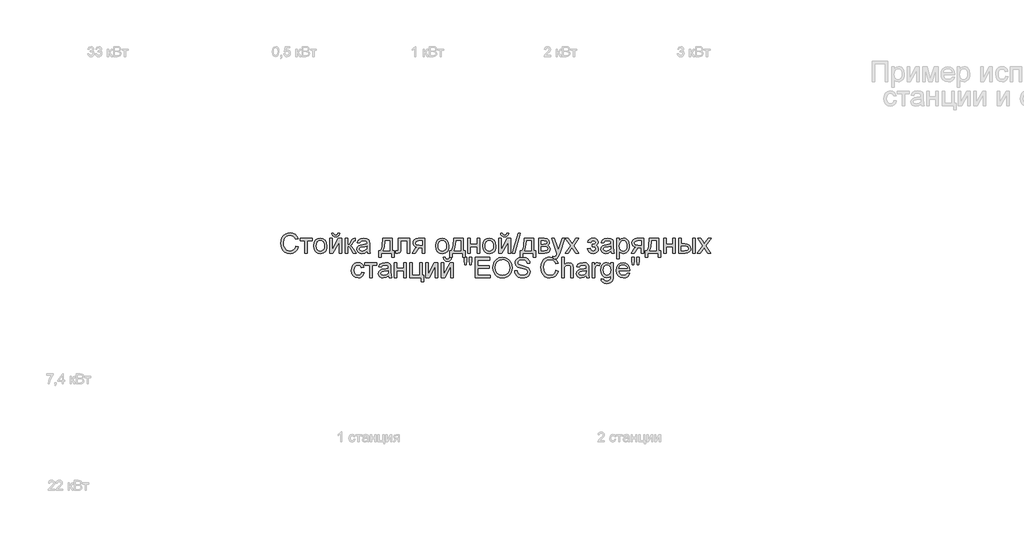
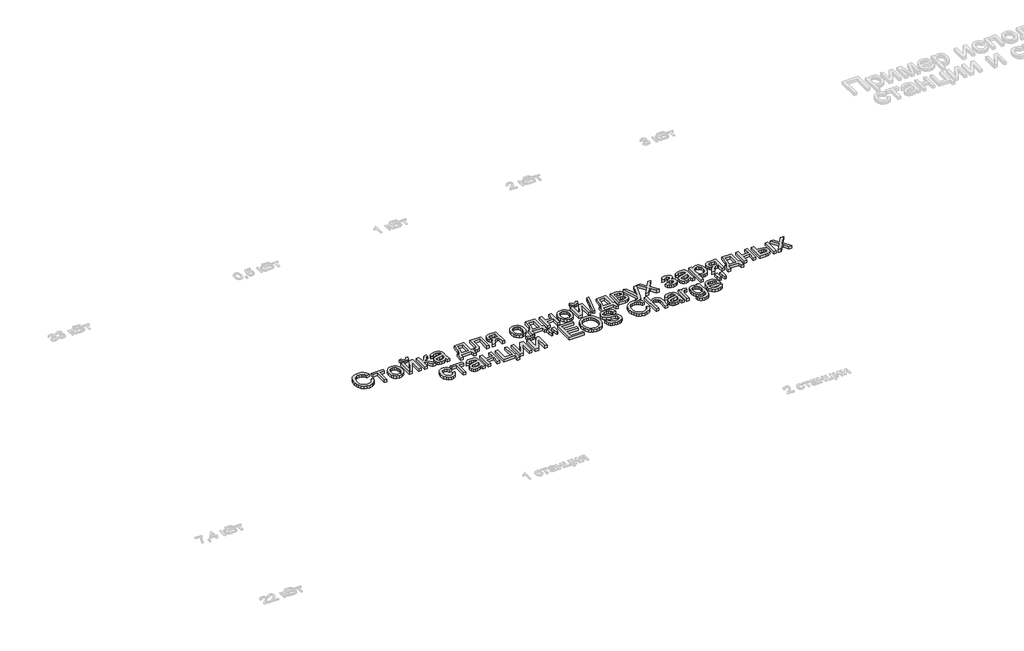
# One storey, part 8 of 26: 1 proxy.
"""IFC4 building model written with IfcOpenShell, lengths in millimetres."""

from ifc_helpers import new_model, si_unit, origin, origin_with_axes, place, context, project, spatial, polyline, outline, extrude, element, save

model = new_model("IFC4")

# Units and contexts
model_context = context("Model", 3, world=origin())
ifc_project = project(units=[si_unit("LENGTHUNIT", "METRE", prefix="MILLI")], contexts=[model_context])

# Site, building, storey
site = spatial("IfcSite", under=ifc_project)
building = spatial("IfcBuilding", under=site)
storey = spatial("IfcBuildingStorey", under=building, Name="Этаж 01", Elevation=0.0)

# Proxy
placement = place(None, origin())
element("IfcBuildingElementProxy", 1, Name="150 мм Arial", ObjectType="150 мм Arial", at=placement, inside=storey, context=model_context, shape_type="SweptSolid", body=[
    extrude(outline(polyline([(9645.9438653, -21077.7070526), (9664.7794235, -21082.5630949), (9656.0882114, -21104.5118545), (9642.4489864, -21120.5469109), (9624.5331332, -21130.3555646), (9603.0120365, -21133.6251159), (9581.1644445, -21131.1511094), (9563.8142099, -21123.7290902), (9550.5152758, -21111.6165755), (9540.8215852, -21095.0710828), (9534.9032836, -21075.6193223), (9532.9305164, -21054.7880043), (9535.160801, -21032.8162521), (9541.8516548, -21013.8427382), (9552.6535899, -20998.4698693), (9567.2171184, -20987.3000523), (9584.489178, -20980.4988339), (9603.4167067, -20978.2317611), (9624.0686822, -20981.16562), (9641.1430053, -20989.9671967), (9654.1062471, -21004.0938653), (9662.4249787, -21023.0029999), (9643.5894206, -21027.4911602), (9637.0595152, -21013.7553662), (9628.1383768, -21004.3329886), (9616.7156408, -20998.8837366), (9602.6809427, -20997.0673192), (9586.503332, -20999.0814732), (9573.2135949, -21005.1239349), (9563.1290297, -21014.5601081), (9556.5669346, -21026.7553963), (9551.7660746, -21054.7512161), (9553.1870188, -21072.1520345), (9557.4498514, -21087.1984081), (9564.7155208, -21099.3155213), (9575.1449754, -21107.9285585), (9587.6483647, -21113.0743079), (9601.1358383, -21114.7895577), (9616.8581951, -21112.453507), (9629.9593926, -21105.445355), (9639.8508198, -21093.8386781), (9645.9438653, -21077.7070526)])), origin_with_axes(), (0.0, 0.0, 1.0), 20.0),
    extrude(outline(polyline([(9678.9060921, -21020.6117669), (9768.3749933, -21020.6117669), (9768.3749933, -21039.4473251), (9733.0583218, -21039.4473251), (9733.0583218, -21131.2706711), (9714.2227636, -21131.2706711), (9714.2227636, -21039.4473251), (9678.9060921, -21039.4473251), (9678.9060921, -21020.6117669)])), origin_with_axes(), (0.0, 0.0, 1.0), 20.0),
    extrude(outline(polyline([(9780.1472172, -21075.941219), (9784.2215103, -21049.2605773), (9796.4443896, -21030.5077926), (9811.5459455, -21021.3199398), (9829.6273455, -21018.2573222), (9849.4147983, -21021.9867259), (9865.2199286, -21033.1749371), (9875.5804052, -21050.9390389), (9879.0338975, -21074.3961146), (9877.5071872, -21093.4248108), (9872.9270564, -21107.9101644), (9865.4268622, -21118.7580847), (9855.1399619, -21126.8744812), (9842.9216811, -21131.9374572), (9829.6273455, -21133.6251159), (9809.6007694, -21129.9095077), (9793.8140333, -21118.7626832), (9783.5639212, -21100.6261009), (9780.1472172, -21075.941219)]), holes=[polyline([(9798.9827753, -21075.9044308), (9801.1624761, -21092.9511628), (9807.7015786, -21105.0958671), (9817.542422, -21112.3661351), (9829.6273455, -21114.7895577), (9841.6570868, -21112.3523395), (9851.479536, -21105.0406848), (9858.0186385, -21092.7350321), (9860.1983393, -21075.3158196), (9858.0048429, -21058.7657284), (9851.4243537, -21046.7865709), (9841.5881089, -21039.516303), (9829.6273455, -21037.0928803), (9817.542422, -21039.5071059), (9807.7015786, -21046.7497827), (9801.1624761, -21058.8668959), (9798.9827753, -21075.9044308)])]), origin_with_axes(), (0.0, 0.0, 1.0), 20.0),
    extrude(outline(polyline([(9900.2239004, -21020.6117669), (9919.0594586, -21020.6117669), (9919.0594586, -21105.0038966), (9965.3390135, -21020.6117669), (9989.6928016, -21020.6117669), (9989.6928016, -21131.2706711), (9970.8572435, -21131.2706711), (9970.8572435, -21047.3935762), (9924.8719941, -21131.2706711), (9900.2239004, -21131.2706711), (9900.2239004, -21020.6117669)])), origin_with_axes(), (0.0, 0.0, 1.0), 20.0),
    extrude(outline(polyline([(9961.4394644, -20980.5862059), (9975.566133, -20980.5862059), (9972.526508, -20992.6481368), (9966.4242654, -21001.5370855), (9957.5353167, -21007.0139287), (9946.1355734, -21008.8395431), (9933.7655413, -21007.0277243), (9924.1730183, -21001.5922678), (9917.6155217, -20992.7171146), (9914.350569, -20980.5862059), (9928.4772376, -20980.5862059), (9933.7747384, -20991.1996014), (9944.4433162, -20994.7128745), (9956.1419637, -20991.309966), (9961.4394644, -20980.5862059)])), origin_with_axes(), (0.0, 0.0, 1.0), 20.0),
    extrude(outline(polyline([(10017.9461389, -21020.6117669), (10036.781697, -21020.6117669), (10036.781697, -21067.7006623), (10049.4000494, -21064.316148), (10059.7375335, -21044.597673), (10068.3275781, -21027.5831307), (10075.9059472, -21022.0465067), (10089.6831279, -21020.6117669), (10093.2883715, -21020.6117669), (10093.2883715, -21039.5576897), (10088.2115999, -21039.4473251), (10079.0145501, -21041.4338879), (10072.5398269, -21053.8315111), (10064.9430637, -21067.2408098), (10054.29288, -21073.8075034), (10066.1754684, -21081.1375522), (10077.8373277, -21096.5793989), (10097.997261, -21131.2706711), (10076.5865289, -21131.2706711), (10056.8312657, -21097.3151629), (10046.8984519, -21082.949371), (10036.781697, -21079.4728862), (10036.781697, -21131.2706711), (10017.9461389, -21131.2706711), (10017.9461389, -21020.6117669)])), origin_with_axes(), (0.0, 0.0, 1.0), 20.0),
    extrude(outline(polyline([(10180.4028279, -21117.1440025), (10162.1374869, -21129.9095077), (10141.9591594, -21133.6251159), (10126.2184086, -21131.3902327), (10114.6071331, -21124.6855834), (10107.4472298, -21114.5044492), (10105.0605953, -21101.8401115), (10108.6658389, -21086.9408907), (10118.1388002, -21076.12516), (10131.3273698, -21069.9447425), (10147.6245422, -21067.1120511), (10180.2924633, -21060.637328), (10180.4028279, -21056.4434733), (10179.1060439, -21048.0373697), (10175.2156918, -21042.5375338), (10166.5152826, -21038.4540437), (10154.3935709, -21037.0928803), (10135.3372835, -21040.716518), (10126.2505982, -21053.5739937), (10107.4150401, -21051.2195489), (10115.5636263, -21032.8254492), (10131.9711633, -21022.0465067), (10156.821592, -21018.2573222), (10179.6486698, -21021.6050483), (10192.5429338, -21030.0111519), (10198.3186811, -21042.7950512), (10199.2383861, -21059.2761646), (10199.2383861, -21082.7102477), (10200.1948793, -21115.4333512), (10203.9472756, -21131.2706711), (10185.1117175, -21131.2706711), (10180.4028279, -21117.1440025)]), holes=[polyline([(10180.4028279, -21079.4728862), (10150.0157751, -21085.2486335), (10133.8105732, -21088.302054), (10126.4713274, -21093.268461), (10123.8961535, -21100.5157363), (10129.5063539, -21110.7060676), (10145.9690732, -21114.7895577), (10165.0253605, -21110.2830033), (10177.3126192, -21099.3753021), (10180.2924633, -21084.8071751), (10180.4028279, -21079.4728862)])]), origin_with_axes(), (0.0, 0.0, 1.0), 20.0),
    extrude(outline(polyline([(10300.4795112, -21020.6117669), (10371.1128542, -21020.6117669), (10371.1128542, -21112.4351129), (10385.2395228, -21112.4351129), (10385.2395228, -21161.8784531), (10366.4039647, -21161.8784531), (10366.4039647, -21131.2706711), (10288.7072873, -21131.2706711), (10288.7072873, -21161.8784531), (10269.8717292, -21161.8784531), (10269.8717292, -21112.4351129), (10281.643953, -21112.4351129), (10290.2018079, -21096.9702736), (10296.1936859, -21076.5114361), (10300.4795112, -21020.6117669)]), holes=[polyline([(10316.9606245, -21039.4473251), (10312.5460406, -21082.3607598), (10302.8339559, -21112.4351129), (10352.2772961, -21112.4351129), (10352.2772961, -21039.4473251), (10316.9606245, -21039.4473251)])]), origin_with_axes(), (0.0, 0.0, 1.0), 20.0),
    extrude(outline(polyline([(10415.8473048, -21020.6117669), (10500.6073165, -21020.6117669), (10500.6073165, -21131.1603065), (10481.7717584, -21131.1603065), (10481.7717584, -21039.4473251), (10434.682863, -21039.4473251), (10434.682863, -21092.2383914), (10433.4136701, -21116.5921795), (10426.4423063, -21126.8744812), (10409.9611929, -21131.2706711), (10394.6573019, -21130.3141779), (10394.6573019, -21112.4351129), (10403.0817996, -21112.4351129), (10411.5982678, -21111.2762846), (10415.0011763, -21107.5974647), (10415.8473048, -21091.1715336), (10415.8473048, -21020.6117669)])), origin_with_axes(), (0.0, 0.0, 1.0), 20.0),
    extrude(outline(polyline([(10613.6206654, -21020.6117669), (10613.6206654, -21131.2706711), (10594.7851073, -21131.2706711), (10594.7851073, -21088.8906652), (10584.5211996, -21088.8906652), (10570.5416838, -21091.2818982), (10557.4082966, -21107.3583414), (10542.3987112, -21131.2706711), (10520.6200971, -21131.2706711), (10539.5292316, -21101.0307711), (10547.8801529, -21090.1782522), (10555.5688866, -21085.3589981), (10542.6930168, -21081.4134637), (10533.6431197, -21073.917868), (10528.2904367, -21063.948266), (10526.506209, -21052.5807123), (10528.9434272, -21039.6864484), (10536.2550819, -21029.477723), (10548.1836556, -21022.828256), (10564.4716309, -21020.6117669), (10613.6206654, -21020.6117669)]), holes=[polyline([(10594.7851073, -21039.4473251), (10569.9530726, -21039.4473251), (10557.1277866, -21040.5371755), (10549.8483216, -21043.8067267), (10545.3417671, -21054.0154521), (10547.0018346, -21061.1937495), (10551.9820372, -21066.173952), (10575.5080907, -21070.0551071), (10594.7851073, -21070.0551071), (10594.7851073, -21039.4473251)])]), origin_with_axes(), (0.0, 0.0, 1.0), 20.0),
    extrude(outline(polyline([(10696.0262324, -21075.941219), (10700.1005255, -21049.2605773), (10712.3234048, -21030.5077926), (10727.4249607, -21021.3199398), (10745.5063607, -21018.2573222), (10765.2938135, -21021.9867259), (10781.0989438, -21033.1749371), (10791.4594204, -21050.9390389), (10794.9129127, -21074.3961146), (10793.3862024, -21093.4248108), (10788.8060716, -21107.9101644), (10781.3058774, -21118.7580847), (10771.0189771, -21126.8744812), (10758.8006963, -21131.9374572), (10745.5063607, -21133.6251159), (10725.4797846, -21129.9095077), (10709.6930485, -21118.7626832), (10699.4429364, -21100.6261009), (10696.0262324, -21075.941219)]), holes=[polyline([(10714.8617905, -21075.9044308), (10717.0414913, -21092.9511628), (10723.5805938, -21105.0958671), (10733.4214372, -21112.3661351), (10745.5063607, -21114.7895577), (10757.536102, -21112.3523395), (10767.3585512, -21105.0406848), (10773.8976537, -21092.7350321), (10776.0773545, -21075.3158196), (10773.8838581, -21058.7657284), (10767.3033689, -21046.7865709), (10757.4671241, -21039.516303), (10745.5063607, -21037.0928803), (10733.4214372, -21039.5071059), (10723.5805938, -21046.7497827), (10717.0414913, -21058.8668959), (10714.8617905, -21075.9044308)])]), origin_with_axes(), (0.0, 0.0, 1.0), 20.0),
    extrude(outline(polyline([(10832.584029, -21020.6117669), (10903.2173721, -21020.6117669), (10903.2173721, -21112.4351129), (10917.3440407, -21112.4351129), (10917.3440407, -21161.8784531), (10898.5084825, -21161.8784531), (10898.5084825, -21131.2706711), (10820.8118051, -21131.2706711), (10820.8118051, -21161.8784531), (10801.976247, -21161.8784531), (10801.976247, -21112.4351129), (10813.7484708, -21112.4351129), (10822.3063257, -21096.9702736), (10828.2982037, -21076.5114361), (10832.584029, -21020.6117669)]), holes=[polyline([(10849.0651424, -21039.4473251), (10844.6505584, -21082.3607598), (10834.9384737, -21112.4351129), (10884.3818139, -21112.4351129), (10884.3818139, -21039.4473251), (10849.0651424, -21039.4473251)])]), origin_with_axes(), (0.0, 0.0, 1.0), 20.0),
    extrude(outline(polyline([(10938.5340436, -21020.6117669), (10957.3696017, -21020.6117669), (10957.3696017, -21062.9917728), (11006.8129419, -21062.9917728), (11006.8129419, -21020.6117669), (11025.6485, -21020.6117669), (11025.6485, -21131.2706711), (11006.8129419, -21131.2706711), (11006.8129419, -21081.8273309), (10957.3696017, -21081.8273309), (10957.3696017, -21131.2706711), (10938.5340436, -21131.2706711), (10938.5340436, -21020.6117669)])), origin_with_axes(), (0.0, 0.0, 1.0), 20.0),
    extrude(outline(polyline([(11049.1929477, -21075.941219), (11053.2672408, -21049.2605773), (11065.4901201, -21030.5077926), (11080.591676, -21021.3199398), (11098.6730761, -21018.2573222), (11118.4605289, -21021.9867259), (11134.2656591, -21033.1749371), (11144.6261358, -21050.9390389), (11148.079628, -21074.3961146), (11146.5529178, -21093.4248108), (11141.9727869, -21107.9101644), (11134.4725927, -21118.7580847), (11124.1856925, -21126.8744812), (11111.9674117, -21131.9374572), (11098.6730761, -21133.6251159), (11078.6465, -21129.9095077), (11062.8597639, -21118.7626832), (11052.6096518, -21100.6261009), (11049.1929477, -21075.941219)]), holes=[polyline([(11068.0285059, -21075.9044308), (11070.2082067, -21092.9511628), (11076.7473092, -21105.0958671), (11086.5881525, -21112.3661351), (11098.6730761, -21114.7895577), (11110.7028173, -21112.3523395), (11120.5252666, -21105.0406848), (11127.0643691, -21092.7350321), (11129.2440699, -21075.3158196), (11127.0505735, -21058.7657284), (11120.4700843, -21046.7865709), (11110.6338395, -21039.516303), (11098.6730761, -21037.0928803), (11086.5881525, -21039.5071059), (11076.7473092, -21046.7497827), (11070.2082067, -21058.8668959), (11068.0285059, -21075.9044308)])]), origin_with_axes(), (0.0, 0.0, 1.0), 20.0),
    extrude(outline(polyline([(11169.269631, -21020.6117669), (11188.1051891, -21020.6117669), (11188.1051891, -21105.0038966), (11234.3847441, -21020.6117669), (11258.7385322, -21020.6117669), (11258.7385322, -21131.2706711), (11239.902974, -21131.2706711), (11239.902974, -21047.3935762), (11193.9177246, -21131.2706711), (11169.269631, -21131.2706711), (11169.269631, -21020.6117669)])), origin_with_axes(), (0.0, 0.0, 1.0), 20.0),
    extrude(outline(polyline([(11230.485195, -20980.5862059), (11244.6118636, -20980.5862059), (11241.5722386, -20992.6481368), (11235.469996, -21001.5370855), (11226.5810473, -21007.0139287), (11215.181304, -21008.8395431), (11202.8112719, -21007.0277243), (11193.2187488, -21001.5922678), (11186.6612523, -20992.7171146), (11183.3962996, -20980.5862059), (11197.5229682, -20980.5862059), (11202.8204689, -20991.1996014), (11213.4890468, -20994.7128745), (11225.1876942, -20991.309966), (11230.485195, -20980.5862059)])), origin_with_axes(), (0.0, 0.0, 1.0), 20.0),
    extrude(outline(polyline([(11272.8652008, -21131.2706711), (11315.2452066, -20980.5862059), (11332.2413548, -20980.5862059), (11289.861349, -21131.2706711), (11272.8652008, -21131.2706711)])), origin_with_axes(), (0.0, 0.0, 1.0), 20.0),
    extrude(outline(polyline([(11362.334102, -21020.6117669), (11432.9674451, -21020.6117669), (11432.9674451, -21112.4351129), (11447.0941137, -21112.4351129), (11447.0941137, -21161.8784531), (11428.2585556, -21161.8784531), (11428.2585556, -21131.2706711), (11350.5618782, -21131.2706711), (11350.5618782, -21161.8784531), (11331.72632, -21161.8784531), (11331.72632, -21112.4351129), (11343.4985439, -21112.4351129), (11352.0563988, -21096.9702736), (11358.0482768, -21076.5114361), (11362.334102, -21020.6117669)]), holes=[polyline([(11378.8152154, -21039.4473251), (11374.4006315, -21082.3607598), (11364.6885468, -21112.4351129), (11414.131887, -21112.4351129), (11414.131887, -21039.4473251), (11378.8152154, -21039.4473251)])]), origin_with_axes(), (0.0, 0.0, 1.0), 20.0),
    extrude(outline(polyline([(11468.2841166, -21020.6117669), (11509.7812057, -21020.6117669), (11532.5347071, -21023.1317586), (11545.3370005, -21032.3655967), (11550.6896836, -21048.460434), (11547.452322, -21061.5386389), (11537.7034491, -21070.8644475), (11550.3585898, -21081.0731728), (11555.3985731, -21098.8234791), (11552.2071968, -21113.180074), (11544.6196306, -21123.2876318), (11532.6082835, -21129.2749113), (11516.1455642, -21131.2706711), (11468.2841166, -21131.2706711), (11468.2841166, -21020.6117669)]), holes=[polyline([(11487.1196748, -21062.9917728), (11505.7345038, -21062.9917728), (11521.093577, -21062.0352796), (11528.5615816, -21058.2093068), (11531.8541254, -21051.2931253), (11530.4101886, -21045.6737279), (11526.0783781, -21042.0592873), (11506.3231149, -21039.4473251), (11487.1196748, -21039.4473251), (11487.1196748, -21062.9917728)]), polyline([(11487.1196748, -21112.4351129), (11510.2226641, -21112.4351129), (11530.7136912, -21109.0322045), (11534.9535312, -21104.3922928), (11536.5630149, -21097.2783747), (11533.3440475, -21088.2100835), (11524.956338, -21082.9309769), (11508.3832541, -21081.8273309), (11487.1196748, -21081.8273309), (11487.1196748, -21112.4351129)])]), origin_with_axes(), (0.0, 0.0, 1.0), 20.0),
    extrude(outline(polyline([(11578.9430208, -21173.6506769), (11576.588576, -21155.5140946), (11586.1535079, -21157.1695635), (11595.0930404, -21155.0910303), (11600.5744821, -21149.2968888), (11605.72483, -21135.4277376), (11607.196358, -21130.8660009), (11567.1707969, -21020.6117669), (11587.0364247, -21020.6117669), (11608.2632158, -21082.0480601), (11615.6576439, -21106.6225774), (11623.052072, -21084.9175397), (11644.8674743, -21020.6117669), (11664.5859493, -21020.6117669), (11626.0687044, -21133.9194214), (11616.0623141, -21158.4939387), (11605.1362188, -21171.7744788), (11590.4577272, -21176.0051217), (11578.9430208, -21173.6506769)])), origin_with_axes(), (0.0, 0.0, 1.0), 20.0),
    extrude(outline(polyline([(11668.411922, -21131.2706711), (11708.6582123, -21075.6469134), (11670.7663668, -21020.6117669), (11693.4278977, -21020.6117669), (11711.7116329, -21047.0992706), (11720.2464951, -21059.6072584), (11727.6409232, -21049.380139), (11748.4630442, -21020.6117669), (11771.1245751, -21020.6117669), (11731.3197432, -21075.6469134), (11769.6530471, -21131.2706711), (11746.9915162, -21131.2706711), (11723.9253151, -21097.8301977), (11719.6946721, -21091.7233566), (11691.0734529, -21131.2706711), (11668.411922, -21131.2706711)])), origin_with_axes(), (0.0, 0.0, 1.0), 20.0),
    extrude(outline(polyline([(11870.8941722, -21081.8273309), (11870.8941722, -21062.9917728), (11885.7566048, -21062.2560088), (11893.2613975, -21058.3380655), (11896.7930646, -21050.1526911), (11892.065781, -21040.6429416), (11879.8704928, -21037.0928803), (11867.2705345, -21040.6245475), (11859.1219483, -21051.2195489), (11837.9319454, -21048.8651042), (11843.5513429, -21035.4741995), (11852.0954022, -21025.9092677), (11863.5641234, -21020.1703085), (11877.9575065, -21018.2573222), (11893.7028559, -21020.5887743), (11905.6222325, -21027.5831307), (11913.1270252, -21037.8148487), (11915.6286228, -21049.8583855), (11912.0693645, -21061.557033), (11901.3915896, -21070.6069301), (11913.8443951, -21082.3423657), (11917.9830675, -21099.2281493), (11915.3573098, -21113.092702), (11907.4800366, -21124.0785781), (11894.8846768, -21131.2384814), (11878.1046593, -21133.6251159), (11861.6925238, -21131.4178239), (11849.1339521, -21124.795948), (11840.4289444, -21113.7594881), (11835.5775006, -21098.3084443), (11856.7675035, -21095.9539995), (11865.2655776, -21109.859939), (11879.907281, -21114.7895577), (11893.6660677, -21110.0622741), (11899.1475094, -21097.9773505), (11895.7446009, -21088.0813248), (11888.4973256, -21082.7838241), (11874.5729921, -21081.7169663), (11870.8941722, -21081.8273309)])), origin_with_axes(), (0.0, 0.0, 1.0), 20.0),
    extrude(outline(polyline([(12012.1608583, -21117.1440025), (11993.8955173, -21129.9095077), (11973.7171898, -21133.6251159), (11957.9764389, -21131.3902327), (11946.3651635, -21124.6855834), (11939.2052601, -21114.5044492), (11936.8186257, -21101.8401115), (11940.4238693, -21086.9408907), (11949.8968306, -21076.12516), (11963.0854002, -21069.9447425), (11979.3825725, -21067.1120511), (12012.0504937, -21060.637328), (12012.1608583, -21056.4434733), (12010.8640743, -21048.0373697), (12006.9737222, -21042.5375338), (11998.273313, -21038.4540437), (11986.1516013, -21037.0928803), (11967.0953139, -21040.716518), (11958.0086286, -21053.5739937), (11939.1730705, -21051.2195489), (11947.3216567, -21032.8254492), (11963.7291936, -21022.0465067), (11988.5796224, -21018.2573222), (12011.4067002, -21021.6050483), (12024.3009642, -21030.0111519), (12030.0767115, -21042.7950512), (12030.9964165, -21059.2761646), (12030.9964165, -21082.7102477), (12031.9529097, -21115.4333512), (12035.705306, -21131.2706711), (12016.8697478, -21131.2706711), (12012.1608583, -21117.1440025)]), holes=[polyline([(12012.1608583, -21079.4728862), (11981.7738055, -21085.2486335), (11965.5686036, -21088.302054), (11958.2293578, -21093.268461), (11955.6541839, -21100.5157363), (11961.2643843, -21110.7060676), (11977.7271036, -21114.7895577), (11996.7833909, -21110.2830033), (12009.0706496, -21099.3753021), (12012.0504937, -21084.8071751), (12012.1608583, -21079.4728862)])]), origin_with_axes(), (0.0, 0.0, 1.0), 20.0),
    extrude(outline(polyline([(12056.8953089, -21173.6506769), (12056.8953089, -21020.6117669), (12075.7308671, -21020.6117669), (12075.7308671, -21039.0794431), (12088.7538897, -21023.4628524), (12106.3386491, -21018.2573222), (12119.0765632, -21020.078338), (12130.2141906, -21025.5413857), (12139.2824817, -21034.3153713), (12145.8123872, -21046.069201), (12151.0730997, -21075.0950904), (12149.5877761, -21091.2037233), (12145.1318055, -21105.6109019), (12137.847742, -21117.5854609), (12127.8781399, -21126.3962346), (12116.2668644, -21131.8178955), (12104.0577807, -21133.6251159), (12087.6686378, -21128.7874676), (12075.7308671, -21116.5553913), (12075.7308671, -21173.6506769), (12056.8953089, -21173.6506769)]), holes=[polyline([(12075.7308671, -21076.8241358), (12077.7680136, -21093.7099194), (12083.8794533, -21105.5189314), (12092.8971607, -21112.4719011), (12103.6531105, -21114.7895577), (12114.5838043, -21112.3891277), (12123.8314379, -21105.1878376), (12130.1360156, -21092.9465642), (12132.2375415, -21075.4261842), (12130.1865994, -21058.6323711), (12124.033773, -21046.6578122), (12115.0298612, -21039.4841133), (12104.4256627, -21037.0928803), (12093.7800775, -21039.6358646), (12084.4312763, -21047.2648175), (12077.9059694, -21059.7406156), (12075.7308671, -21076.8241358)])]), origin_with_axes(), (0.0, 0.0, 1.0), 20.0),
    extrude(outline(polyline([(12257.0231143, -21020.6117669), (12257.0231143, -21131.2706711), (12238.1875561, -21131.2706711), (12238.1875561, -21088.8906652), (12227.9236485, -21088.8906652), (12213.9441327, -21091.2818982), (12200.8107454, -21107.3583414), (12185.80116, -21131.2706711), (12164.0225459, -21131.2706711), (12182.9316805, -21101.0307711), (12191.2826018, -21090.1782522), (12198.9713355, -21085.3589981), (12186.0954656, -21081.4134637), (12177.0455685, -21073.917868), (12171.6928855, -21063.948266), (12169.9086578, -21052.5807123), (12172.3458761, -21039.6864484), (12179.6575307, -21029.477723), (12191.5861044, -21022.828256), (12207.8740797, -21020.6117669), (12257.0231143, -21020.6117669)]), holes=[polyline([(12238.1875561, -21039.4473251), (12213.3555215, -21039.4473251), (12200.5302354, -21040.5371755), (12193.2507704, -21043.8067267), (12188.744216, -21054.0154521), (12190.4042835, -21061.1937495), (12195.384486, -21066.173952), (12218.9105396, -21070.0551071), (12238.1875561, -21070.0551071), (12238.1875561, -21039.4473251)])]), origin_with_axes(), (0.0, 0.0, 1.0), 20.0),
    extrude(outline(polyline([(12301.7575649, -21020.6117669), (12372.390908, -21020.6117669), (12372.390908, -21112.4351129), (12386.5175766, -21112.4351129), (12386.5175766, -21161.8784531), (12367.6820184, -21161.8784531), (12367.6820184, -21131.2706711), (12289.9853411, -21131.2706711), (12289.9853411, -21161.8784531), (12271.1497829, -21161.8784531), (12271.1497829, -21112.4351129), (12282.9220068, -21112.4351129), (12291.4798617, -21096.9702736), (12297.4717397, -21076.5114361), (12301.7575649, -21020.6117669)]), holes=[polyline([(12318.2386783, -21039.4473251), (12313.8240944, -21082.3607598), (12304.1120097, -21112.4351129), (12353.5553498, -21112.4351129), (12353.5553498, -21039.4473251), (12318.2386783, -21039.4473251)])]), origin_with_axes(), (0.0, 0.0, 1.0), 20.0),
    extrude(outline(polyline([(12407.7075795, -21020.6117669), (12426.5431377, -21020.6117669), (12426.5431377, -21062.9917728), (12475.9864778, -21062.9917728), (12475.9864778, -21020.6117669), (12494.822036, -21020.6117669), (12494.822036, -21131.2706711), (12475.9864778, -21131.2706711), (12475.9864778, -21081.8273309), (12426.5431377, -21081.8273309), (12426.5431377, -21131.2706711), (12407.7075795, -21131.2706711), (12407.7075795, -21020.6117669)])), origin_with_axes(), (0.0, 0.0, 1.0), 20.0),
    extrude(outline(polyline([(12626.6709431, -21020.6117669), (12645.5065012, -21020.6117669), (12645.5065012, -21131.2706711), (12626.6709431, -21131.2706711), (12626.6709431, -21020.6117669)])), origin_with_axes(), (0.0, 0.0, 1.0), 20.0),
    extrude(outline(polyline([(12523.0753732, -21020.6117669), (12541.9109314, -21020.6117669), (12541.9109314, -21060.637328), (12565.1978617, -21060.637328), (12585.3256053, -21062.9963713), (12600.2386217, -21070.0735012), (12609.4678613, -21081.2985006), (12612.5442744, -21096.1011523), (12609.9645019, -21109.5794289), (12602.2251845, -21120.9515811), (12588.8204843, -21128.6908986), (12569.2445636, -21131.2706711), (12523.0753732, -21131.2706711), (12523.0753732, -21020.6117669)]), holes=[polyline([(12541.9109314, -21112.4351129), (12561.2615243, -21112.4351129), (12586.2407118, -21108.4803815), (12591.8417152, -21103.4174055), (12593.7087163, -21096.1379405), (12588.1720923, -21084.5496577), (12579.2923406, -21080.742079), (12563.7263337, -21079.4728862), (12541.9109314, -21079.4728862), (12541.9109314, -21112.4351129)])]), origin_with_axes(), (0.0, 0.0, 1.0), 20.0),
    extrude(outline(polyline([(12661.9876146, -21131.2706711), (12702.2339049, -21075.6469134), (12664.3420594, -21020.6117669), (12687.0035903, -21020.6117669), (12705.2873254, -21047.0992706), (12713.8221877, -21059.6072584), (12721.2166158, -21049.380139), (12742.0387367, -21020.6117669), (12764.7002676, -21020.6117669), (12724.8954358, -21075.6469134), (12763.2287397, -21131.2706711), (12740.5672088, -21131.2706711), (12717.5010077, -21097.8301977), (12713.2703647, -21091.7233566), (12684.6491455, -21131.2706711), (12661.9876146, -21131.2706711)])), origin_with_axes(), (0.0, 0.0, 1.0), 20.0),
    extrude(outline(polyline([(10139.2000445, -21274.2073368), (10158.0356026, -21276.5617815), (10152.7840871, -21293.3142079), (10142.9156526, -21305.9739471), (10129.3592011, -21313.9339937), (10113.0436346, -21316.5873426), (10093.0078614, -21312.88553), (10077.340687, -21301.7800923), (10067.2285306, -21283.7584731), (10063.8578119, -21259.308116), (10065.2971502, -21242.5464926), (10069.6151651, -21228.0197523), (10076.8808345, -21216.2889152), (10087.1631362, -21207.9150012), (10099.4641905, -21202.893412), (10112.7861172, -21201.2195489), (10128.701612, -21203.5188114), (10141.4257305, -21210.4165988), (10150.5538025, -21221.5450292), (10155.6811579, -21236.5362205), (10136.8455997, -21238.8906652), (10128.1084023, -21224.7823907), (10112.93327, -21220.0551071), (10100.7609745, -21222.3819607), (10091.0994736, -21229.3625216), (10084.7948959, -21241.3738687), (10082.69337, -21258.7930812), (10084.7489107, -21276.4468184), (10090.9155326, -21288.4995523), (10100.4022896, -21295.4387264), (10112.4182352, -21297.7517845), (10122.1717066, -21296.3078476), (10130.1685415, -21291.9760371), (10135.9856755, -21284.6459884), (10139.2000445, -21274.2073368)])), origin_with_axes(), (0.0, 0.0, 1.0), 20.0),
    extrude(outline(polyline([(10165.0989369, -21203.5739937), (10254.5678382, -21203.5739937), (10254.5678382, -21222.4095519), (10219.2511666, -21222.4095519), (10219.2511666, -21314.2328978), (10200.4156085, -21314.2328978), (10200.4156085, -21222.4095519), (10165.0989369, -21222.4095519), (10165.0989369, -21203.5739937)])), origin_with_axes(), (0.0, 0.0, 1.0), 20.0),
    extrude(outline(polyline([(10341.6822946, -21300.1062292), (10323.4169536, -21312.8717345), (10303.2386261, -21316.5873426), (10287.4978752, -21314.3524595), (10275.8865998, -21307.6478101), (10268.7266964, -21297.4666759), (10266.340062, -21284.8023382), (10269.9453056, -21269.9031174), (10279.4182669, -21259.0873868), (10292.6068365, -21252.9069693), (10308.9040088, -21250.0742779), (10341.57193, -21243.5995548), (10341.6822946, -21239.4057), (10340.3855106, -21230.9995964), (10336.4951585, -21225.4997606), (10327.7947493, -21221.4162705), (10315.6730376, -21220.0551071), (10296.6167502, -21223.6787447), (10287.5300649, -21236.5362205), (10268.6945068, -21234.1817757), (10276.843093, -21215.7876759), (10293.2506299, -21205.0087335), (10318.1010587, -21201.2195489), (10340.9281365, -21204.5672751), (10353.8224005, -21212.9733787), (10359.5981478, -21225.757278), (10360.5178528, -21242.2383914), (10360.5178528, -21265.6724745), (10361.474346, -21298.395578), (10365.2267423, -21314.2328978), (10346.3911842, -21314.2328978), (10341.6822946, -21300.1062292)]), holes=[polyline([(10341.6822946, -21262.4351129), (10311.2952418, -21268.2108603), (10295.0900399, -21271.2642808), (10287.7507941, -21276.2306877), (10285.1756202, -21283.4779631), (10290.7858206, -21293.6682943), (10307.2485399, -21297.7517845), (10326.3048272, -21293.24523), (10338.5920859, -21282.3375289), (10341.57193, -21267.7694019), (10341.6822946, -21262.4351129)])]), origin_with_axes(), (0.0, 0.0, 1.0), 20.0),
    extrude(outline(polyline([(10386.4167452, -21203.5739937), (10405.2523034, -21203.5739937), (10405.2523034, -21245.9539995), (10454.6956435, -21245.9539995), (10454.6956435, -21203.5739937), (10473.5312017, -21203.5739937), (10473.5312017, -21314.2328978), (10454.6956435, -21314.2328978), (10454.6956435, -21264.7895577), (10405.2523034, -21264.7895577), (10405.2523034, -21314.2328978), (10386.4167452, -21314.2328978), (10386.4167452, -21203.5739937)])), origin_with_axes(), (0.0, 0.0, 1.0), 20.0),
    extrude(outline(polyline([(10501.7845389, -21203.5739937), (10520.6200971, -21203.5739937), (10520.6200971, -21295.3973397), (10574.7723268, -21295.3973397), (10574.7723268, -21203.5739937), (10593.6078849, -21203.5739937), (10593.6078849, -21295.3973397), (10605.3801088, -21295.3973397), (10605.3801088, -21344.8406798), (10586.5445506, -21344.8406798), (10586.5445506, -21314.2328978), (10501.7845389, -21314.2328978), (10501.7845389, -21203.5739937)])), origin_with_axes(), (0.0, 0.0, 1.0), 20.0),
    extrude(outline(polyline([(10621.8612221, -21203.5739937), (10640.6967803, -21203.5739937), (10640.6967803, -21287.9661234), (10686.9763353, -21203.5739937), (10711.3301234, -21203.5739937), (10711.3301234, -21314.2328978), (10692.4945652, -21314.2328978), (10692.4945652, -21230.3558029), (10646.5093158, -21314.2328978), (10621.8612221, -21314.2328978), (10621.8612221, -21203.5739937)])), origin_with_axes(), (0.0, 0.0, 1.0), 20.0),
    extrude(outline(polyline([(10739.5834606, -21203.5739937), (10758.4190187, -21203.5739937), (10758.4190187, -21287.9661234), (10804.6985737, -21203.5739937), (10829.0523618, -21203.5739937), (10829.0523618, -21314.2328978), (10810.2168037, -21314.2328978), (10810.2168037, -21230.3558029), (10764.2315543, -21314.2328978), (10739.5834606, -21314.2328978), (10739.5834606, -21203.5739937)])), origin_with_axes(), (0.0, 0.0, 1.0), 20.0),
    extrude(outline(polyline([(10800.7990246, -21163.5484326), (10814.9256932, -21163.5484326), (10811.8860682, -21175.6103635), (10805.7838256, -21184.4993123), (10796.8948769, -21189.9761555), (10785.4951336, -21191.8017699), (10773.1251015, -21189.989951), (10763.5325785, -21184.5544945), (10756.9750819, -21175.6793414), (10753.7101292, -21163.5484326), (10767.8367978, -21163.5484326), (10773.1342986, -21174.1618282), (10783.8028764, -21177.6751012), (10795.5015239, -21174.2721928), (10800.7990246, -21163.5484326)])), origin_with_axes(), (0.0, 0.0, 1.0), 20.0),
    extrude(outline(polyline([(10916.0564537, -21217.7006623), (10911.4579287, -21188.6011965), (10911.4579287, -21163.5484326), (10930.2934869, -21163.5484326), (10930.2934869, -21188.6011965), (10926.1732085, -21217.7006623), (10916.0564537, -21217.7006623)])), origin_with_axes(), (0.0, 0.0, 1.0), 20.0),
    extrude(outline(polyline([(10953.6172054, -21217.7006623), (10949.129045, -21188.6011965), (10949.129045, -21163.5484326), (10967.9646032, -21163.5484326), (10967.9646032, -21188.6011965), (10963.5500193, -21217.7006623), (10953.6172054, -21217.7006623)])), origin_with_axes(), (0.0, 0.0, 1.0), 20.0),
    extrude(outline(polyline([(10993.8634957, -21314.2328978), (10993.8634957, -21163.5484326), (11102.167955, -21163.5484326), (11102.167955, -21182.3839908), (11012.6990538, -21182.3839908), (11012.6990538, -21227.1184414), (11097.4590655, -21227.1184414), (11097.4590655, -21245.9539995), (11012.6990538, -21245.9539995), (11012.6990538, -21295.3973397), (11104.5223998, -21295.3973397), (11104.5223998, -21314.2328978), (10993.8634957, -21314.2328978)])), origin_with_axes(), (0.0, 0.0, 1.0), 20.0),
    extrude(outline(polyline([(11125.7124027, -21240.877228), (11130.733992, -21207.5563163), (11137.0109785, -21193.9377847), (11145.7987597, -21182.3472026), (11168.8005814, -21166.4822915), (11197.6333328, -21161.1939879), (11217.397793, -21163.6771913), (11235.1205081, -21171.1268017), (11249.8357879, -21183.0185872), (11260.5779422, -21198.828316), (11267.1446358, -21217.7926328), (11269.3335337, -21239.1481826), (11267.0296727, -21260.788841), (11260.1180897, -21280.0198723), (11248.9804623, -21295.8571922), (11233.998468, -21307.3167163), (11216.4275042, -21314.269686), (11197.5229682, -21316.5873426), (11177.4550054, -21314.0259642), (11159.6311227, -21306.3418291), (11144.9526311, -21294.2293144), (11134.3208414, -21278.3827974), (11127.8645124, -21260.149646), (11125.7124027, -21240.877228)]), holes=[polyline([(11144.5479609, -21241.061169), (11148.3141528, -21264.6332078), (11159.6127286, -21282.5950463), (11176.5950812, -21293.9625999), (11197.4126036, -21297.7517845), (11218.5336286, -21293.9258117), (11235.5435724, -21282.4478935), (11246.7593747, -21263.9342321), (11250.4979755, -21239.0010298), (11248.8976888, -21222.3267784), (11244.0968288, -21207.9150012), (11236.2195556, -21196.1289818), (11225.3900293, -21187.3320036), (11212.32562, -21181.8551604), (11197.7436974, -21180.029546), (11177.4825965, -21183.5474176), (11160.2565221, -21194.1010323), (11148.4751012, -21212.8768097), (11144.5479609, -21241.061169)])]), origin_with_axes(), (0.0, 0.0, 1.0), 20.0),
    extrude(outline(polyline([(11288.1690918, -21262.4351129), (11307.00465, -21262.4351129), (11313.0747029, -21281.2890652), (11327.9003473, -21293.2084418), (11350.4883018, -21297.7517845), (11370.1699885, -21294.3120878), (11382.8803115, -21284.8575205), (11387.0557721, -21272.220774), (11383.9287751, -21260.4669443), (11371.1264817, -21251.9136879), (11343.700879, -21244.7215949), (11314.1783489, -21235.4325745), (11298.157088, -21221.4162705), (11292.8779813, -21202.6910769), (11294.5104577, -21191.6592156), (11299.4078868, -21181.3723153), (11307.4415098, -21172.653512), (11318.4825682, -21166.3259417), (11346.4048116, -21161.1939879), (11376.2032532, -21166.565065), (11387.6259892, -21173.1961379), (11396.068881, -21182.3472026), (11401.412367, -21193.4480418), (11403.5368855, -21205.9284385), (11384.7013273, -21205.9284385), (11381.2432366, -21194.6896435), (11374.0327495, -21186.5778455), (11362.7663634, -21181.6666209), (11347.1405756, -21180.029546), (11331.1469059, -21181.6482268), (11320.1748254, -21186.5042691), (11313.828861, -21193.6503769), (11311.7135395, -21202.1392539), (11313.2126586, -21209.3773322), (11317.710016, -21215.1990647), (11348.4649508, -21225.7204898), (11381.7950596, -21235.1750571), (11392.5326153, -21242.0084651), (11400.0236124, -21250.4421599), (11404.4244008, -21260.3841708), (11405.8913303, -21271.7425274), (11404.2036716, -21283.3538029), (11399.1406956, -21294.2752996), (11390.909336, -21303.6746846), (11379.7165263, -21310.7196248), (11366.2566438, -21315.1204132), (11351.2240658, -21316.5873426), (11332.7701852, -21315.00545), (11317.5812573, -21310.2597723), (11305.4825382, -21302.3319153), (11296.2992839, -21291.203485), (11290.4039749, -21277.6470334), (11288.1690918, -21262.4351129)])), origin_with_axes(), (0.0, 0.0, 1.0), 20.0),
    extrude(outline(polyline([(11598.9558013, -21260.6692794), (11617.7913595, -21265.5253217), (11609.1001473, -21287.4740812), (11595.4609224, -21303.5091377), (11577.5450692, -21313.3177914), (11556.0239725, -21316.5873426), (11534.1763805, -21314.1133362), (11516.8261459, -21306.6913169), (11503.5272118, -21294.5788023), (11493.8335212, -21278.0333095), (11487.9152196, -21258.581549), (11485.9424524, -21237.7502311), (11488.172737, -21215.7784789), (11494.8635908, -21196.804965), (11505.6655259, -21181.4320961), (11520.2290544, -21170.262279), (11537.501114, -21163.4610607), (11556.4286427, -21161.1939879), (11577.0806182, -21164.1278468), (11594.1549413, -21172.9294235), (11607.1181831, -21187.0560921), (11615.4369147, -21205.9652267), (11596.6013566, -21210.453387), (11590.0714511, -21196.717593), (11581.1503128, -21187.2952154), (11569.7275768, -21181.8459634), (11555.6928787, -21180.029546), (11539.515268, -21182.0436999), (11526.2255309, -21188.0861617), (11516.1409657, -21197.5223349), (11509.5788706, -21209.717623), (11504.7780106, -21237.7134429), (11506.1989548, -21255.1142612), (11510.4617874, -21270.1606348), (11517.7274568, -21282.277748), (11528.1569114, -21290.8907853), (11540.6603007, -21296.0365347), (11554.1477743, -21297.7517845), (11569.8701311, -21295.4157338), (11582.9713286, -21288.4075818), (11592.8627558, -21276.8009048), (11598.9558013, -21260.6692794)])), origin_with_axes(), (0.0, 0.0, 1.0), 20.0),
    extrude(outline(polyline([(11641.3358072, -21314.2328978), (11641.3358072, -21163.5484326), (11660.1713653, -21163.5484326), (11660.1713653, -21218.9514611), (11674.859054, -21205.652527), (11692.9496511, -21201.2195489), (11714.1028658, -21206.0571972), (11726.9419475, -21219.4297077), (11730.8047084, -21244.188166), (11730.8047084, -21314.2328978), (11711.9691502, -21314.2328978), (11711.9691502, -21246.1379405), (11710.4700311, -21234.3473226), (11705.9726737, -21226.2723128), (11698.7253984, -21221.6094085), (11688.9765255, -21220.0551071), (11673.5438759, -21224.2489618), (11663.24318, -21235.6165155), (11660.1713653, -21255.445355), (11660.1713653, -21314.2328978), (11641.3358072, -21314.2328978)])), origin_with_axes(), (0.0, 0.0, 1.0), 20.0),
    extrude(outline(polyline([(11827.3369439, -21300.1062292), (11809.0716029, -21312.8717345), (11788.8932754, -21316.5873426), (11773.1525246, -21314.3524595), (11761.5412491, -21307.6478101), (11754.3813458, -21297.4666759), (11751.9947113, -21284.8023382), (11755.5999549, -21269.9031174), (11765.0729163, -21259.0873868), (11778.2614858, -21252.9069693), (11794.5586582, -21250.0742779), (11827.2265793, -21243.5995548), (11827.3369439, -21239.4057), (11826.0401599, -21230.9995964), (11822.1498078, -21225.4997606), (11813.4493986, -21221.4162705), (11801.3276869, -21220.0551071), (11782.2713995, -21223.6787447), (11773.1847142, -21236.5362205), (11754.3491561, -21234.1817757), (11762.4977423, -21215.7876759), (11778.9052793, -21205.0087335), (11803.755708, -21201.2195489), (11826.5827858, -21204.5672751), (11839.4770498, -21212.9733787), (11845.2527971, -21225.757278), (11846.1725021, -21242.2383914), (11846.1725021, -21265.6724745), (11847.1289953, -21298.395578), (11850.8813916, -21314.2328978), (11832.0458335, -21314.2328978), (11827.3369439, -21300.1062292)]), holes=[polyline([(11827.3369439, -21262.4351129), (11796.9498911, -21268.2108603), (11780.7446892, -21271.2642808), (11773.4054434, -21276.2306877), (11770.8302695, -21283.4779631), (11776.4404699, -21293.6682943), (11792.9031892, -21297.7517845), (11811.9594765, -21293.24523), (11824.2467352, -21282.3375289), (11827.2265793, -21267.7694019), (11827.3369439, -21262.4351129)])]), origin_with_axes(), (0.0, 0.0, 1.0), 20.0),
    extrude(outline(polyline([(11872.0713945, -21314.2328978), (11872.0713945, -21203.5739937), (11888.5525079, -21203.5739937), (11888.5525079, -21219.9447425), (11900.2511554, -21204.8615807), (11912.0233792, -21201.2195489), (11930.9325138, -21207.0320845), (11924.6417317, -21223.917868), (11911.3979798, -21220.0551071), (11900.7477961, -21223.7707152), (11893.9603733, -21234.0714111), (11890.9069527, -21256.0707544), (11890.9069527, -21314.2328978), (11872.0713945, -21314.2328978)])), origin_with_axes(), (0.0, 0.0, 1.0), 20.0),
    extrude(outline(polyline([(11937.9958481, -21323.6506769), (11956.8314062, -21326.0051217), (11962.9382474, -21335.9379356), (11981.2219825, -21340.1317903), (12000.4989991, -21335.3861126), (12009.6960489, -21322.0687843), (12010.9836359, -21300.1062292), (11997.72149, -21310.7012307), (11981.5530763, -21314.2328978), (11962.1335055, -21310.1218166), (11947.6527505, -21297.7885727), (11938.6442401, -21279.7071726), (11935.6414033, -21258.3516228), (11941.0308745, -21229.1601865), (11947.6251593, -21217.3097877), (11956.6290711, -21208.5036124), (11967.7345089, -21203.0405648), (11980.6333713, -21201.2195489), (11997.4363815, -21205.3398273), (12010.9836359, -21217.7006623), (12010.9836359, -21203.5739937), (12029.8191941, -21203.5739937), (12029.8191941, -21299.1129478), (12028.5316071, -21321.172072), (12024.6688461, -21335.6988123), (12018.0147806, -21345.332722), (12008.3532797, -21352.7133545), (11995.8958756, -21357.40385), (11980.8541005, -21358.9673485), (11963.329122, -21356.764655), (11949.5289486, -21350.1565747), (11940.6767881, -21339.1247133), (11937.9958481, -21323.6506769)]), holes=[polyline([(11954.4769615, -21257.0640358), (11956.4865169, -21274.340694), (11962.5151831, -21286.2186839), (11971.5788757, -21293.1026758), (11982.6935105, -21295.3973397), (11993.7253718, -21293.1164713), (12002.8350497, -21286.2738662), (12008.9464894, -21274.5476276), (12010.9836359, -21257.6158588), (12008.8867086, -21241.2864967), (12002.5959264, -21229.5280685), (11993.3528913, -21222.4233474), (11982.3992049, -21220.0551071), (11971.6432551, -21222.3865592), (11962.6255477, -21229.3809157), (11956.514108, -21240.9646), (11954.4769615, -21257.0640358)])]), origin_with_axes(), (0.0, 0.0, 1.0), 20.0),
    extrude(outline(polyline([(12135.5484795, -21281.2706711), (12154.0161557, -21283.6251159), (12147.3620901, -21297.5402523), (12136.744096, -21307.9421157), (12122.4012967, -21314.4260359), (12104.5728155, -21316.5873426), (12082.4723046, -21312.8579389), (12065.4669594, -21301.6697277), (12054.6236376, -21283.749276), (12051.009197, -21259.8231508), (12054.6604258, -21235.0922836), (12065.6141122, -21216.5970163), (12082.3895312, -21205.0639158), (12103.5059577, -21201.2195489), (12123.9647952, -21205.0547187), (12140.3125513, -21216.5602281), (12151.031713, -21235.0187072), (12154.6047668, -21259.7127862), (12154.4944022, -21264.7895577), (12069.8447552, -21264.7895577), (12073.1051093, -21278.8886352), (12080.6788799, -21289.2537104), (12091.6095737, -21295.6272659), (12104.9406975, -21297.7517845), (12123.4083737, -21293.8154471), (12135.5484795, -21281.2706711)]), holes=[polyline([(12069.8447552, -21245.9539995), (12135.7692087, -21245.9539995), (12133.2216259, -21236.0027916), (12128.2276278, -21228.884275), (12117.2463502, -21222.2623991), (12103.4323813, -21220.0551071), (12090.735854, -21221.8163421), (12080.2374215, -21227.1000473), (12072.9395624, -21235.3360055), (12069.8447552, -21245.9539995)])]), origin_with_axes(), (0.0, 0.0, 1.0), 20.0),
    extrude(outline(polyline([(12210.8907121, -21217.7006623), (12206.4025518, -21188.6011965), (12206.4025518, -21163.5484326), (12225.2381099, -21163.5484326), (12225.2381099, -21188.6011965), (12220.823526, -21217.7006623), (12210.8907121, -21217.7006623)])), origin_with_axes(), (0.0, 0.0, 1.0), 20.0),
    extrude(outline(polyline([(12173.3299604, -21217.7006623), (12168.7314355, -21188.6011965), (12168.7314355, -21163.5484326), (12187.5669936, -21163.5484326), (12187.5669936, -21188.6011965), (12183.4467153, -21217.7006623), (12173.3299604, -21217.7006623)])), origin_with_axes(), (0.0, 0.0, 1.0), 20.0),
])

save(model, "model.ifc")
